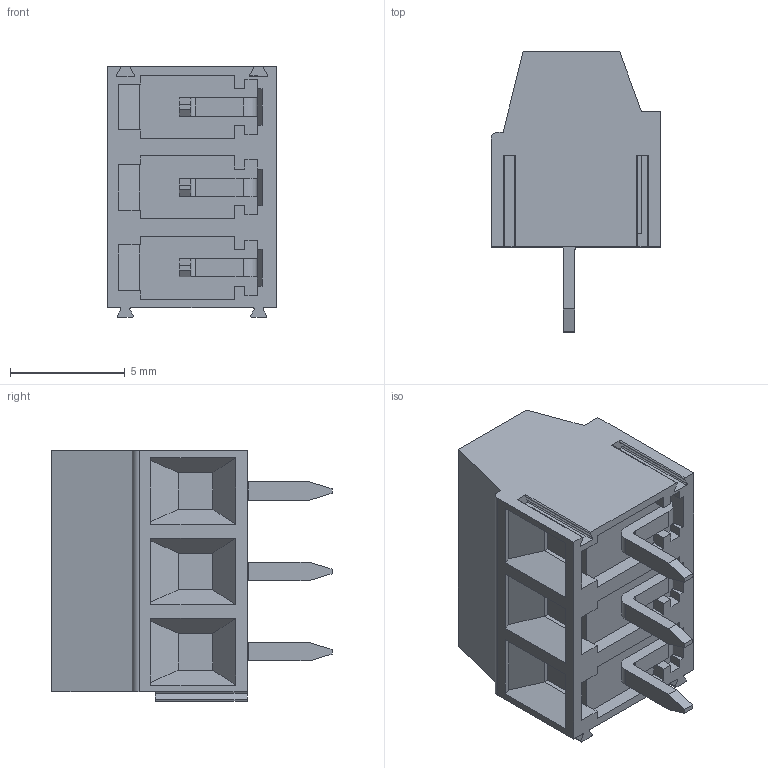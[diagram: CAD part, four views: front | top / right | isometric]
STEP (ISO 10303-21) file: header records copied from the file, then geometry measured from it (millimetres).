
FILE_DESCRIPTION((''),'2;1');
FILE_NAME('3','2019-04-17T',('zhenbing.lai'),(''),'CREO PARAMETRIC BY PTC INC, 2016260','CREO PARAMETRIC BY PTC INC, 2016260','');
FILE_SCHEMA(('CONFIG_CONTROL_DESIGN'));
Length unit declared in the file: millimetre
Products named in the file (1): 3
Bounding box: 7.4 x 12.2 x 10.9 mm (x, y, z)
Volume: 503.1 mm3; surface area: 713.2 mm2
Topology: 1 solids, 1 shells, 331 faces, 930 edges, 613 vertices
Faces by surface type: plane 218, cylinder 74, torus 18, cone 15, bspline 6
Entity records: 12336 total; most frequent: CARTESIAN_POINT 3712, ORIENTED_EDGE 1860, DIRECTION 1705, EDGE_CURVE 930, VERTEX_POINT 613, VECTOR 607, LINE 607, AXIS2_PLACEMENT_3D 549
